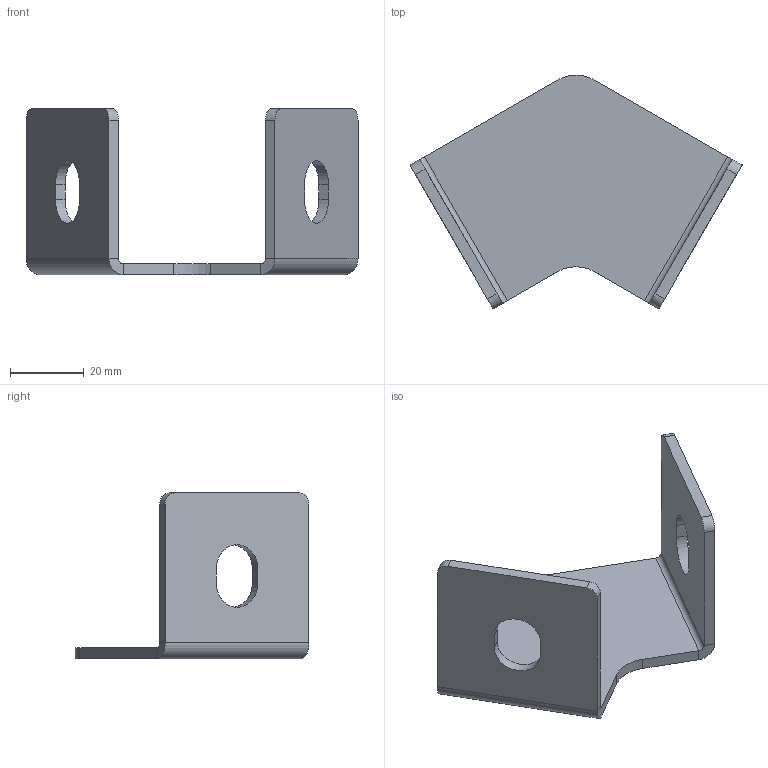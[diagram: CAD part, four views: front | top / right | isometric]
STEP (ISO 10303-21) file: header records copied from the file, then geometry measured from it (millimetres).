
FILE_DESCRIPTION (( 'STEP AP214' ), '1' );
FILE_NAME ('454560.STEP', '2018-03-06T05:50:55', ( '' ), ( '' ), 'SwSTEP 2.0', 'SolidWorks 2014', '' );
FILE_SCHEMA (( 'AUTOMOTIVE_DESIGN' ));
Length unit declared in the file: millimetre
Products named in the file (2): 454560
Bounding box: 90 x 63.4 x 45 mm (x, y, z)
Volume: 20383 mm3; surface area: 15086 mm2
Topology: 1 solids, 1 shells, 38 faces, 92 edges, 56 vertices
Faces by surface type: plane 24, cylinder 14
Entity records: 1153 total; most frequent: DIRECTION 200, CARTESIAN_POINT 188, ORIENTED_EDGE 184, EDGE_CURVE 92, AXIS2_PLACEMENT_3D 68, VECTOR 64, LINE 64, VERTEX_POINT 56
